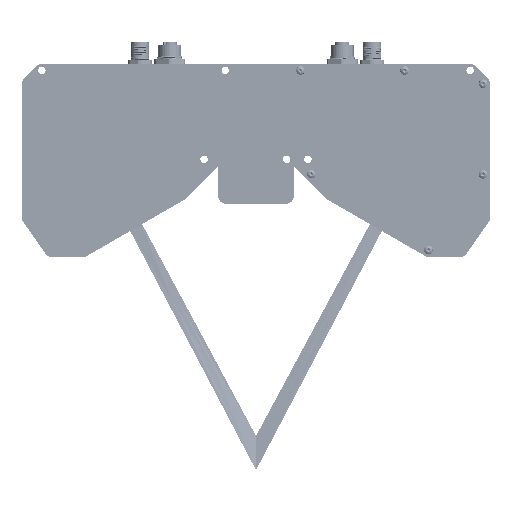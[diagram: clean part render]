
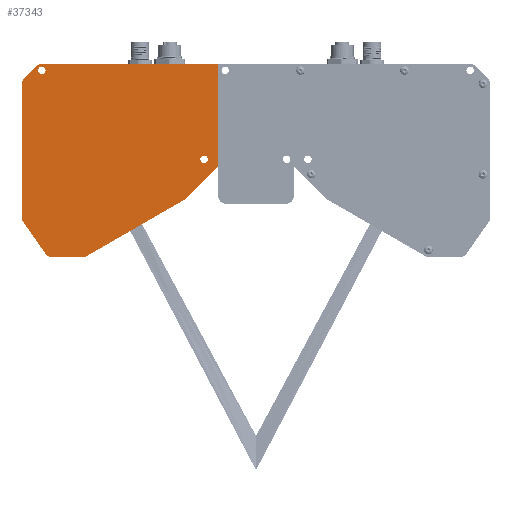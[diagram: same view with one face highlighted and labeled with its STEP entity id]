
A CAD part, front view. The second image highlights one B-rep face of the part: STEP entity #37343.
In plain terms, the highlighted planar face has unit normal (0, -1, 0).
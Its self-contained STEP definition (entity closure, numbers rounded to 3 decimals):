
#1102=FACE_BOUND('',#6106,.T.);
#1103=FACE_BOUND('',#6107,.T.);
#2257=PLANE('',#40546);
#3718=FACE_OUTER_BOUND('',#6105,.T.);
#6105=EDGE_LOOP('',(#29278,#29279,#29280,#29281,#29282,#29283,#29284,#29285,
#29286,#29287,#29288,#29289,#29290,#29291,#29292,#29293,#29294,#29295));
#6106=EDGE_LOOP('',(#29296));
#6107=EDGE_LOOP('',(#29297));
#9185=CIRCLE('',#40543,4.);
#9187=CIRCLE('',#40547,4.);
#9188=CIRCLE('',#40548,4.);
#9189=CIRCLE('',#40549,4.);
#9190=CIRCLE('',#40550,4.);
#9191=CIRCLE('',#40551,4.);
#9192=CIRCLE('',#40552,2.2);
#9193=CIRCLE('',#40553,2.2);
#11194=LINE('',#58945,#14011);
#11309=LINE('',#59419,#14126);
#11315=LINE('',#59431,#14132);
#11317=LINE('',#59434,#14134);
#11320=LINE('',#59440,#14137);
#11321=LINE('',#59442,#14138);
#11374=LINE('',#59618,#14191);
#11395=LINE('',#59723,#14212);
#11398=LINE('',#59729,#14215);
#11399=LINE('',#59733,#14216);
#11400=LINE('',#59737,#14217);
#11401=LINE('',#59741,#14218);
#14011=VECTOR('',#46186,10.);
#14126=VECTOR('',#46659,10.);
#14132=VECTOR('',#46667,10.);
#14134=VECTOR('',#46671,10.);
#14137=VECTOR('',#46676,10.);
#14138=VECTOR('',#46679,10.);
#14191=VECTOR('',#46878,10.);
#14212=VECTOR('',#46991,10.);
#14215=VECTOR('',#46996,10.);
#14216=VECTOR('',#47001,10.);
#14217=VECTOR('',#47004,10.);
#14218=VECTOR('',#47007,10.);
#17124=VERTEX_POINT('',#58938);
#17127=VERTEX_POINT('',#58943);
#17263=VERTEX_POINT('',#59415);
#17265=VERTEX_POINT('',#59418);
#17268=VERTEX_POINT('',#59425);
#17270=VERTEX_POINT('',#59429);
#17272=VERTEX_POINT('',#59438);
#17320=VERTEX_POINT('',#59614);
#17322=VERTEX_POINT('',#59617);
#17356=VERTEX_POINT('',#59713);
#17357=VERTEX_POINT('',#59714);
#17360=VERTEX_POINT('',#59722);
#17362=VERTEX_POINT('',#59728);
#17363=VERTEX_POINT('',#59731);
#17364=VERTEX_POINT('',#59734);
#17365=VERTEX_POINT('',#59736);
#17366=VERTEX_POINT('',#59738);
#17367=VERTEX_POINT('',#59740);
#17368=VERTEX_POINT('',#59743);
#17369=VERTEX_POINT('',#59745);
#21330=EDGE_CURVE('',#17124,#17127,#11194,.T.);
#21544=EDGE_CURVE('',#17263,#17265,#11309,.T.);
#21550=EDGE_CURVE('',#17268,#17270,#11315,.T.);
#21552=EDGE_CURVE('',#17265,#17270,#11317,.T.);
#21555=EDGE_CURVE('',#17263,#17272,#11320,.T.);
#21556=EDGE_CURVE('',#17127,#17268,#11321,.T.);
#21640=EDGE_CURVE('',#17322,#17320,#11374,.T.);
#21686=EDGE_CURVE('',#17356,#17357,#9185,.T.);
#21690=EDGE_CURVE('',#17360,#17357,#11395,.T.);
#21693=EDGE_CURVE('',#17356,#17362,#11398,.T.);
#21694=EDGE_CURVE('',#17322,#17362,#9187,.T.);
#21695=EDGE_CURVE('',#17363,#17320,#9188,.T.);
#21696=EDGE_CURVE('',#17363,#17124,#11399,.T.);
#21697=EDGE_CURVE('',#17364,#17272,#9189,.T.);
#21698=EDGE_CURVE('',#17364,#17365,#11400,.T.);
#21699=EDGE_CURVE('',#17366,#17365,#9190,.T.);
#21700=EDGE_CURVE('',#17366,#17367,#11401,.T.);
#21701=EDGE_CURVE('',#17360,#17367,#9191,.T.);
#21702=EDGE_CURVE('',#17368,#17368,#9192,.T.);
#21703=EDGE_CURVE('',#17369,#17369,#9193,.T.);
#29278=ORIENTED_EDGE('',*,*,#21686,.F.);
#29279=ORIENTED_EDGE('',*,*,#21693,.T.);
#29280=ORIENTED_EDGE('',*,*,#21694,.F.);
#29281=ORIENTED_EDGE('',*,*,#21640,.T.);
#29282=ORIENTED_EDGE('',*,*,#21695,.F.);
#29283=ORIENTED_EDGE('',*,*,#21696,.T.);
#29284=ORIENTED_EDGE('',*,*,#21330,.T.);
#29285=ORIENTED_EDGE('',*,*,#21556,.T.);
#29286=ORIENTED_EDGE('',*,*,#21550,.T.);
#29287=ORIENTED_EDGE('',*,*,#21552,.F.);
#29288=ORIENTED_EDGE('',*,*,#21544,.F.);
#29289=ORIENTED_EDGE('',*,*,#21555,.T.);
#29290=ORIENTED_EDGE('',*,*,#21697,.F.);
#29291=ORIENTED_EDGE('',*,*,#21698,.T.);
#29292=ORIENTED_EDGE('',*,*,#21699,.F.);
#29293=ORIENTED_EDGE('',*,*,#21700,.T.);
#29294=ORIENTED_EDGE('',*,*,#21701,.F.);
#29295=ORIENTED_EDGE('',*,*,#21690,.T.);
#29296=ORIENTED_EDGE('',*,*,#21702,.T.);
#29297=ORIENTED_EDGE('',*,*,#21703,.T.);
#37343=ADVANCED_FACE('',(#3718,#1102,#1103),#2257,.T.);
#40543=AXIS2_PLACEMENT_3D('',#59715,#46983,#46984);
#40546=AXIS2_PLACEMENT_3D('',#59727,#46994,#46995);
#40547=AXIS2_PLACEMENT_3D('',#59730,#46997,#46998);
#40548=AXIS2_PLACEMENT_3D('',#59732,#46999,#47000);
#40549=AXIS2_PLACEMENT_3D('',#59735,#47002,#47003);
#40550=AXIS2_PLACEMENT_3D('',#59739,#47005,#47006);
#40551=AXIS2_PLACEMENT_3D('',#59742,#47008,#47009);
#40552=AXIS2_PLACEMENT_3D('',#59744,#47010,#47011);
#40553=AXIS2_PLACEMENT_3D('',#59746,#47012,#47013);
#46186=DIRECTION('',(0.,0.,1.));
#46659=DIRECTION('',(0.,0.,1.));
#46667=DIRECTION('',(0.,0.,1.));
#46671=DIRECTION('',(1.,0.,0.));
#46676=DIRECTION('',(-1.,0.,0.));
#46679=DIRECTION('',(-1.,0.,0.));
#46878=DIRECTION('',(0.866,0.,0.5));
#46983=DIRECTION('center_axis',(0.,1.,0.));
#46984=DIRECTION('ref_axis',(-0.462,0.,-0.887));
#46991=DIRECTION('',(0.574,0.,-0.819));
#46994=DIRECTION('center_axis',(0.,-1.,0.));
#46995=DIRECTION('ref_axis',(0.,0.,-1.));
#46996=DIRECTION('',(1.,0.,0.));
#46997=DIRECTION('center_axis',(0.,1.,0.));
#46998=DIRECTION('ref_axis',(0.259,0.,-0.966));
#46999=DIRECTION('center_axis',(0.,1.,0.));
#47000=DIRECTION('ref_axis',(0.609,0.,-0.793));
#47001=DIRECTION('',(0.707,0.,0.707));
#47002=DIRECTION('center_axis',(0.,1.,0.));
#47003=DIRECTION('ref_axis',(-0.383,0.,0.924));
#47004=DIRECTION('',(-0.707,0.,-0.707));
#47005=DIRECTION('center_axis',(0.,1.,0.));
#47006=DIRECTION('ref_axis',(-0.924,0.,0.383));
#47007=DIRECTION('',(0.,0.,-1.));
#47008=DIRECTION('center_axis',(0.,1.,0.));
#47009=DIRECTION('ref_axis',(-0.954,0.,-0.301));
#47010=DIRECTION('center_axis',(0.,1.,0.));
#47011=DIRECTION('ref_axis',(-1.,0.,0.));
#47012=DIRECTION('center_axis',(0.,1.,0.));
#47013=DIRECTION('ref_axis',(-1.,0.,0.));
#58938=CARTESIAN_POINT('',(25.,-30.,0.));
#58943=CARTESIAN_POINT('',(25.,-30.,60.));
#58945=CARTESIAN_POINT('',(25.,-30.,0.));
#59415=CARTESIAN_POINT('',(-77.,-30.,60.));
#59418=CARTESIAN_POINT('',(-77.,-30.,60.1));
#59419=CARTESIAN_POINT('',(-77.,-30.,60.));
#59425=CARTESIAN_POINT('',(-69.,-30.,60.));
#59429=CARTESIAN_POINT('',(-69.,-30.,60.1));
#59431=CARTESIAN_POINT('',(-69.,-30.,60.));
#59434=CARTESIAN_POINT('',(-77.,-30.,60.1));
#59438=CARTESIAN_POINT('',(-78.343,-30.,60.));
#59440=CARTESIAN_POINT('',(25.,-30.,60.));
#59442=CARTESIAN_POINT('',(25.,-30.,60.));
#59614=CARTESIAN_POINT('',(5.42,-30.,-19.388));
#59617=CARTESIAN_POINT('',(-51.87,-30.,-52.464));
#59618=CARTESIAN_POINT('',(-52.799,-30.,-53.));
#59713=CARTESIAN_POINT('',(-72.918,-30.,-53.));
#59714=CARTESIAN_POINT('',(-76.194,-30.,-51.294));
#59715=CARTESIAN_POINT('Origin',(-72.918,-30.,-49.));
#59722=CARTESIAN_POINT('',(-89.277,-30.,-32.611));
#59723=CARTESIAN_POINT('',(-90.,-30.,-31.578));
#59727=CARTESIAN_POINT('Origin',(-36.348,-30.,11.501));
#59728=CARTESIAN_POINT('',(-53.87,-30.,-53.));
#59729=CARTESIAN_POINT('',(-75.,-30.,-53.));
#59730=CARTESIAN_POINT('Origin',(-53.87,-30.,-49.));
#59731=CARTESIAN_POINT('',(6.248,-30.,-18.752));
#59732=CARTESIAN_POINT('Origin',(3.42,-30.,-15.924));
#59733=CARTESIAN_POINT('',(5.876,-30.,-19.124));
#59734=CARTESIAN_POINT('',(-81.172,-30.,58.828));
#59735=CARTESIAN_POINT('Origin',(-78.343,-30.,56.));
#59736=CARTESIAN_POINT('',(-88.828,-30.,51.172));
#59737=CARTESIAN_POINT('',(-80.,-30.,60.));
#59738=CARTESIAN_POINT('',(-90.,-30.,48.343));
#59739=CARTESIAN_POINT('Origin',(-86.,-30.,48.343));
#59740=CARTESIAN_POINT('',(-90.,-30.,-30.317));
#59741=CARTESIAN_POINT('',(-90.,-30.,50.));
#59742=CARTESIAN_POINT('Origin',(-86.,-30.,-30.317));
#59743=CARTESIAN_POINT('',(-76.185,-30.,56.1));
#59744=CARTESIAN_POINT('Origin',(-78.385,-30.,56.1));
#59745=CARTESIAN_POINT('',(18.815,-30.,4.1));
#59746=CARTESIAN_POINT('Origin',(16.615,-30.,4.1));
